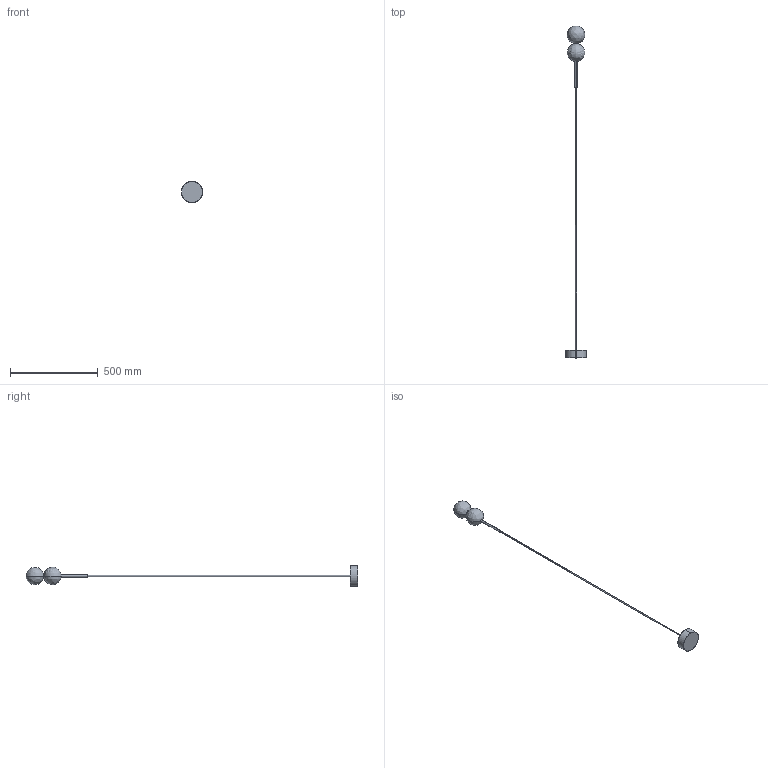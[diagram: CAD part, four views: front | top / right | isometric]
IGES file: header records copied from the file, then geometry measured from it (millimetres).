
Start section: SolidWorks IGES file using analytic representation for surfaces
Global section: file name: C:\Users\adrian\Desktop\MODELADOS USA\DALT\CU1280\DALT_CU1280.IGS; native system: SolidWorks 2023; preprocessor: SolidWorks 2023; author: adrian; date: 260605.094224; units: inch
Bounding box: 119.89 x 1896.96 x 119.89 mm (x, y, z)
Surface area: 167848.8 mm2 (no closed solid volume)
Topology: 0 solids, 0 shells, 31 faces, 440 edges, 432 vertices
Faces by surface type: bspline 29, revolution 2
